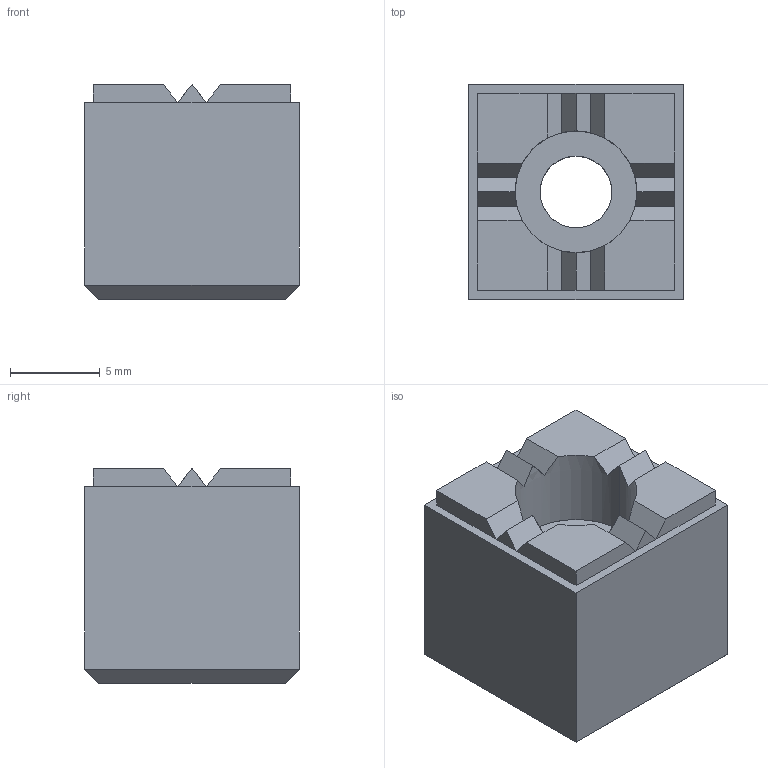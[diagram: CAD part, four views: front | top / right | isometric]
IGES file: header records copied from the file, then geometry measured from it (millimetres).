
Start section: SolidWorks IGES FILE using analytic representation for surfaces
Global section: file name: C:\WIX2\Positioning\3549\3549W002.igs; native system: SolidWorks 2003 by SolidWorks Corporation; preprocessor: Version 5.3; author: Joan; date: 030722.143931; units: millimetre
Bounding box: 12 x 12 x 12 mm (x, y, z)
Surface area: 1004.9 mm2 (no closed solid volume)
Topology: 0 solids, 0 shells, 47 faces, 330 edges, 330 vertices
Faces by surface type: bspline 43, revolution 4
